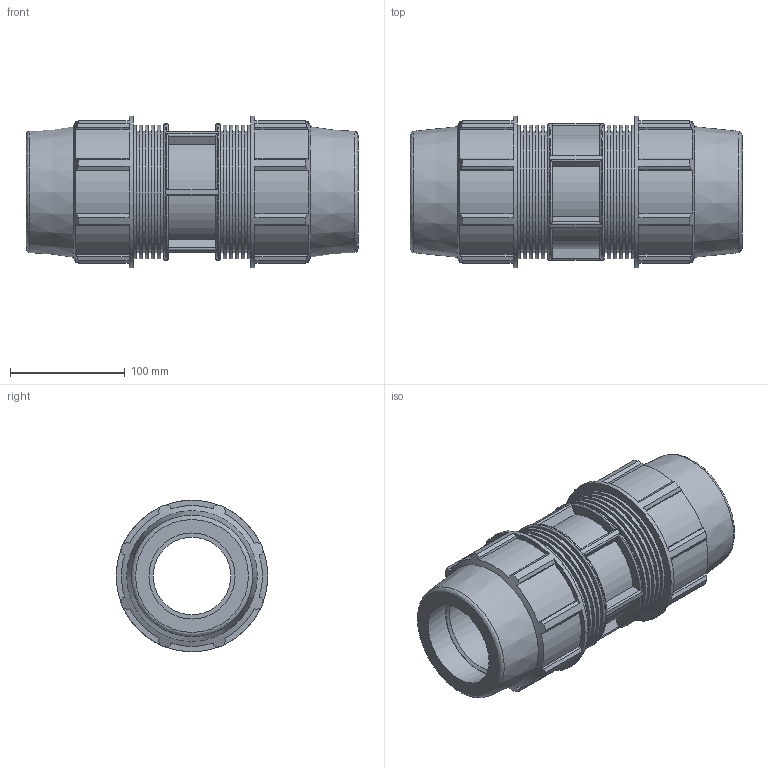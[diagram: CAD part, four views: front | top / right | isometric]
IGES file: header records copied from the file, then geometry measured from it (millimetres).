
Global section: file name: 870100075_180100075_840106075.ipt; native system: Autodesk Inventor 2015; preprocessor: unknown; author: KIM; date: 20180325.201117; units: millimetre
Bounding box: 289 x 132 x 132 mm (x, y, z)
Volume: 1694921.4 mm3; surface area: 246633.3 mm2
Topology: 1 solids, 1 shells, 216 faces, 561 edges, 378 vertices
Faces by surface type: plane 132, cylinder 57, revolution 23, cone 4
Full cylindrical faces by diameter (mm): 105.6 x10, 116.424 x10, 118.8 x1, 132 x2
